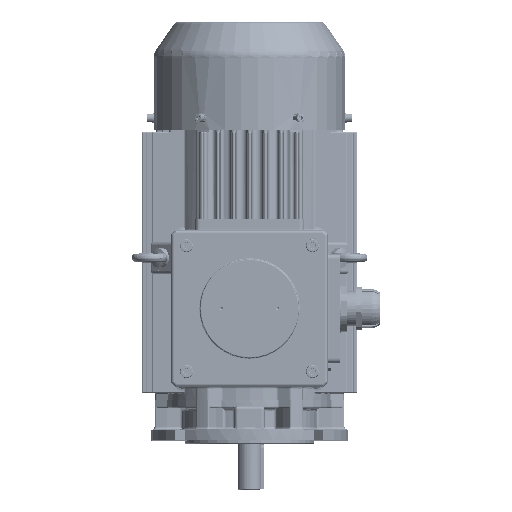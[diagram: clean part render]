
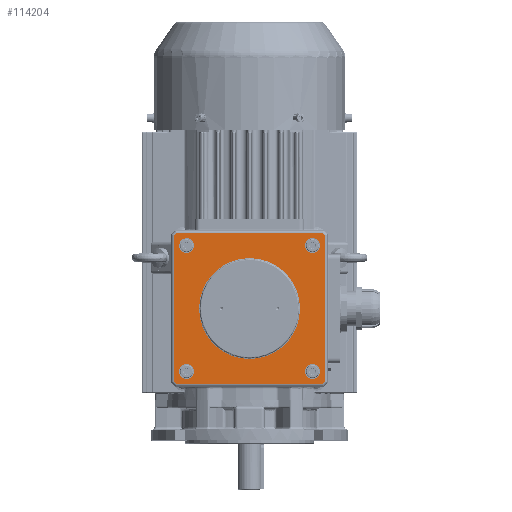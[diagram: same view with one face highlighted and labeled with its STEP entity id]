
A CAD part, top view. The second image highlights one B-rep face of the part: STEP entity #114204.
In plain terms, the highlighted planar face has unit normal (0, 0, 1).
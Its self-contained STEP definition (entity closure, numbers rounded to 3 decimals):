
#2804=PLANE('',#122597);
#8750=CIRCLE('',#122547,7.5);
#8755=CIRCLE('',#122555,7.5);
#8760=CIRCLE('',#122563,7.5);
#8764=CIRCLE('',#122570,7.5);
#8766=CIRCLE('',#122590,51.);
#29811=ORIENTED_EDGE('',*,*,#43371,.F.);
#29812=ORIENTED_EDGE('',*,*,#43356,.T.);
#29813=ORIENTED_EDGE('',*,*,#43350,.T.);
#29814=ORIENTED_EDGE('',*,*,#43352,.T.);
#29815=ORIENTED_EDGE('',*,*,#43358,.T.);
#29816=ORIENTED_EDGE('',*,*,#43364,.T.);
#29817=ORIENTED_EDGE('',*,*,#43370,.T.);
#29818=ORIENTED_EDGE('',*,*,#43368,.T.);
#29819=ORIENTED_EDGE('',*,*,#43362,.T.);
#29820=ORIENTED_EDGE('',*,*,#43345,.T.);
#29821=ORIENTED_EDGE('',*,*,#43339,.T.);
#29822=ORIENTED_EDGE('',*,*,#43332,.T.);
#29823=ORIENTED_EDGE('',*,*,#43325,.T.);
#43325=EDGE_CURVE('',#51578,#51578,#8750,.T.);
#43332=EDGE_CURVE('',#51584,#51584,#8755,.T.);
#43339=EDGE_CURVE('',#51590,#51590,#8760,.T.);
#43345=EDGE_CURVE('',#51594,#51594,#8764,.T.);
#43350=EDGE_CURVE('',#51596,#51599,#57546,.T.);
#43352=EDGE_CURVE('',#51599,#51600,#57547,.T.);
#43356=EDGE_CURVE('',#51602,#51596,#57550,.T.);
#43358=EDGE_CURVE('',#51600,#51604,#57551,.T.);
#43362=EDGE_CURVE('',#51606,#51602,#57554,.T.);
#43364=EDGE_CURVE('',#51604,#51608,#57555,.T.);
#43368=EDGE_CURVE('',#51610,#51606,#57558,.T.);
#43370=EDGE_CURVE('',#51608,#51610,#57560,.T.);
#43371=EDGE_CURVE('',#51612,#51612,#8766,.T.);
#51578=VERTEX_POINT('',#185690);
#51584=VERTEX_POINT('',#185706);
#51590=VERTEX_POINT('',#185722);
#51594=VERTEX_POINT('',#185735);
#51596=VERTEX_POINT('',#185741);
#51599=VERTEX_POINT('',#185746);
#51600=VERTEX_POINT('',#185750);
#51602=VERTEX_POINT('',#185756);
#51604=VERTEX_POINT('',#185762);
#51606=VERTEX_POINT('',#185768);
#51608=VERTEX_POINT('',#185774);
#51610=VERTEX_POINT('',#185780);
#51612=VERTEX_POINT('',#185789);
#57546=LINE('',#185747,#62898);
#57547=LINE('',#185752,#62899);
#57550=LINE('',#185759,#62902);
#57551=LINE('',#185764,#62903);
#57554=LINE('',#185771,#62906);
#57555=LINE('',#185776,#62907);
#57558=LINE('',#185783,#62910);
#57560=LINE('',#185786,#62912);
#62898=VECTOR('',#144047,1000.);
#62899=VECTOR('',#144052,1000.);
#62902=VECTOR('',#144059,1000.);
#62903=VECTOR('',#144064,1000.);
#62906=VECTOR('',#144071,1000.);
#62907=VECTOR('',#144076,1000.);
#62910=VECTOR('',#144083,1000.);
#62912=VECTOR('',#144087,1000.);
#68156=EDGE_LOOP('',(#29811));
#68157=EDGE_LOOP('',(#29812,#29813,#29814,#29815,#29816,#29817,#29818,#29819));
#68158=EDGE_LOOP('',(#29820));
#68159=EDGE_LOOP('',(#29821));
#68160=EDGE_LOOP('',(#29822));
#68161=EDGE_LOOP('',(#29823));
#73975=FACE_BOUND('',#68156,.T.);
#73976=FACE_BOUND('',#68157,.T.);
#73977=FACE_BOUND('',#68158,.T.);
#73978=FACE_BOUND('',#68159,.T.);
#73979=FACE_BOUND('',#68160,.T.);
#73980=FACE_BOUND('',#68161,.T.);
#114204=ADVANCED_FACE('',(#73975,#73976,#73977,#73978,#73979,#73980),#2804,
 .T.);
#122547=AXIS2_PLACEMENT_3D('',#185689,#143982,#143983);
#122555=AXIS2_PLACEMENT_3D('',#185705,#144000,#144001);
#122563=AXIS2_PLACEMENT_3D('',#185721,#144018,#144019);
#122570=AXIS2_PLACEMENT_3D('',#185734,#144034,#144035);
#122590=AXIS2_PLACEMENT_3D('',#185788,#144090,#144091);
#122597=AXIS2_PLACEMENT_3D('',#185799,#144104,#144105);
#143982=DIRECTION('',(0.,0.,-1.));
#143983=DIRECTION('',(1.,0.,0.));
#144000=DIRECTION('',(0.,0.,-1.));
#144001=DIRECTION('',(1.,0.,0.));
#144018=DIRECTION('',(0.,0.,-1.));
#144019=DIRECTION('',(1.,0.,0.));
#144034=DIRECTION('',(0.,0.,-1.));
#144035=DIRECTION('',(1.,0.,0.));
#144047=DIRECTION('',(0.707,0.707,0.));
#144052=DIRECTION('',(0.,1.,0.));
#144059=DIRECTION('',(1.,0.,0.));
#144064=DIRECTION('',(-0.707,0.707,0.));
#144071=DIRECTION('',(0.707,-0.707,0.));
#144076=DIRECTION('',(-1.,0.,0.));
#144083=DIRECTION('',(0.,-1.,0.));
#144087=DIRECTION('',(-0.707,-0.707,0.));
#144090=DIRECTION('',(0.,0.,1.));
#144091=DIRECTION('',(1.,0.,0.));
#144104=DIRECTION('',(0.,0.,1.));
#144105=DIRECTION('',(1.,0.,0.));
#185689=CARTESIAN_POINT('',(63.64,160.64,247.));
#185690=CARTESIAN_POINT('',(71.14,160.64,247.));
#185705=CARTESIAN_POINT('',(63.64,33.36,247.));
#185706=CARTESIAN_POINT('',(71.14,33.36,247.));
#185721=CARTESIAN_POINT('',(-63.64,33.36,247.));
#185722=CARTESIAN_POINT('',(-56.14,33.36,247.));
#185734=CARTESIAN_POINT('',(-63.64,160.64,247.));
#185735=CARTESIAN_POINT('',(-56.14,160.64,247.));
#185741=CARTESIAN_POINT('',(73.757,21.,247.));
#185746=CARTESIAN_POINT('',(76.,23.243,247.));
#185747=CARTESIAN_POINT('',(74.879,22.121,247.));
#185750=CARTESIAN_POINT('',(76.,170.757,247.));
#185752=CARTESIAN_POINT('',(76.,97.,247.));
#185756=CARTESIAN_POINT('',(-73.757,21.,247.));
#185759=CARTESIAN_POINT('',(0.,21.,247.));
#185762=CARTESIAN_POINT('',(73.757,173.,247.));
#185764=CARTESIAN_POINT('',(74.879,171.879,247.));
#185768=CARTESIAN_POINT('',(-76.,23.243,247.));
#185771=CARTESIAN_POINT('',(-74.879,22.121,247.));
#185774=CARTESIAN_POINT('',(-73.757,173.,247.));
#185776=CARTESIAN_POINT('',(0.,173.,247.));
#185780=CARTESIAN_POINT('',(-76.,170.757,247.));
#185783=CARTESIAN_POINT('',(-76.,97.,247.));
#185786=CARTESIAN_POINT('',(-74.879,171.879,247.));
#185788=CARTESIAN_POINT('',(0.,97.,247.));
#185789=CARTESIAN_POINT('',(51.,97.,247.));
#185799=CARTESIAN_POINT('',(0.,97.,247.));
